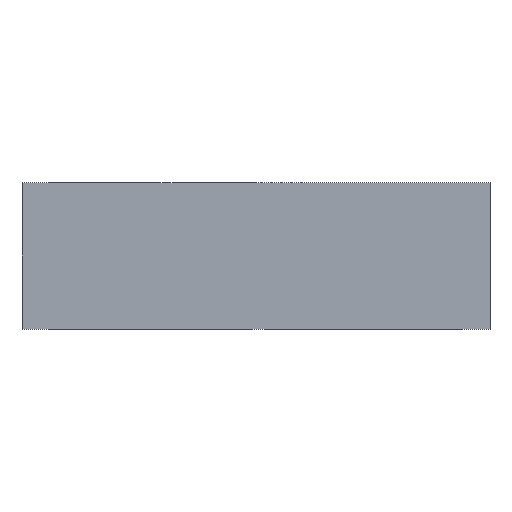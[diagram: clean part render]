
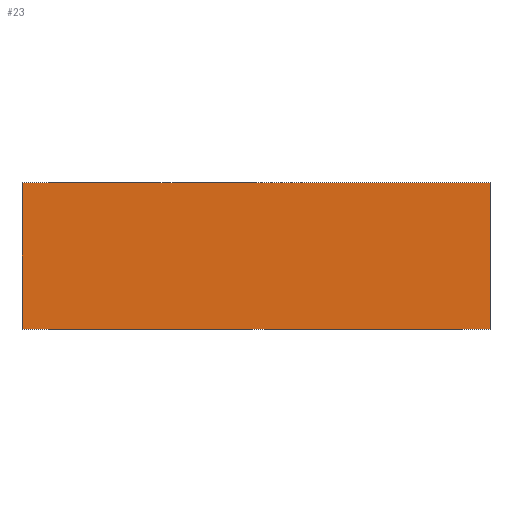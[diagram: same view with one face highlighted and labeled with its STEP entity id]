
A CAD part, front view. The second image highlights one B-rep face of the part: STEP entity #23.
In plain terms, the highlighted planar face has unit normal (0, -1, 0).
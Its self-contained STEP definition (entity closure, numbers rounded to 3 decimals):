
#23 = ADVANCED_FACE ( 'NONE', ( #228 ), #650, .F. ) ;
#25 = AXIS2_PLACEMENT_3D ( 'NONE', #645, #640, #638 ) ;
#78 = EDGE_CURVE ( 'NONE', #651, #655, #147, .T. ) ;
#93 = VECTOR ( 'NONE', #533, 1000. ) ;
#107 = VECTOR ( 'NONE', #531, 1000. ) ;
#113 = LINE ( 'NONE', #534, #93 ) ;
#122 = VECTOR ( 'NONE', #527, 1000. ) ;
#123 = LINE ( 'NONE', #528, #122 ) ;
#146 = VECTOR ( 'NONE', #553, 1000. ) ;
#147 = LINE ( 'NONE', #554, #146 ) ;
#170 = LINE ( 'NONE', #532, #107 ) ;
#228 = FACE_OUTER_BOUND ( 'NONE', #279, .T. ) ;
#279 = EDGE_LOOP ( 'NONE', ( #302, #303, #304, #305 ) ) ;
#302 = ORIENTED_EDGE ( 'NONE', *, *, #78, .T. ) ;
#303 = ORIENTED_EDGE ( 'NONE', *, *, #393, .F. ) ;
#304 = ORIENTED_EDGE ( 'NONE', *, *, #389, .F. ) ;
#305 = ORIENTED_EDGE ( 'NONE', *, *, #391, .T. ) ;
#389 = EDGE_CURVE ( 'NONE', #574, #626, #113, .T. ) ;
#391 = EDGE_CURVE ( 'NONE', #574, #651, #170, .T. ) ;
#393 = EDGE_CURVE ( 'NONE', #626, #655, #123, .T. ) ;
#460 = CARTESIAN_POINT ( 'NONE',  ( -104., 0., 65. ) ) ;
#463 = CARTESIAN_POINT ( 'NONE',  ( 104., 0., 0. ) ) ;
#465 = CARTESIAN_POINT ( 'NONE',  ( -104., 0., 0. ) ) ;
#477 = CARTESIAN_POINT ( 'NONE',  ( 104., 0., 65. ) ) ;
#527 = DIRECTION ( 'NONE',  ( 0., 0., -1. ) ) ;
#528 = CARTESIAN_POINT ( 'NONE',  ( 104., 0., 65. ) ) ;
#531 = DIRECTION ( 'NONE',  ( 0., 0., -1. ) ) ;
#532 = CARTESIAN_POINT ( 'NONE',  ( -104., 0., 65. ) ) ;
#533 = DIRECTION ( 'NONE',  ( 1., 0., 0. ) ) ;
#534 = CARTESIAN_POINT ( 'NONE',  ( -104., 0., 65. ) ) ;
#553 = DIRECTION ( 'NONE',  ( 1., 0., 0. ) ) ;
#554 = CARTESIAN_POINT ( 'NONE',  ( -104., 0., 0. ) ) ;
#574 = VERTEX_POINT ( 'NONE', #460 ) ;
#626 = VERTEX_POINT ( 'NONE', #477 ) ;
#638 = DIRECTION ( 'NONE',  ( -1., 0., 0. ) ) ;
#640 = DIRECTION ( 'NONE',  ( 0., 1., 0. ) ) ;
#645 = CARTESIAN_POINT ( 'NONE',  ( -104., 0., 65. ) ) ;
#650 = PLANE ( 'NONE',  #25 ) ;
#651 = VERTEX_POINT ( 'NONE', #465 ) ;
#655 = VERTEX_POINT ( 'NONE', #463 ) ;
